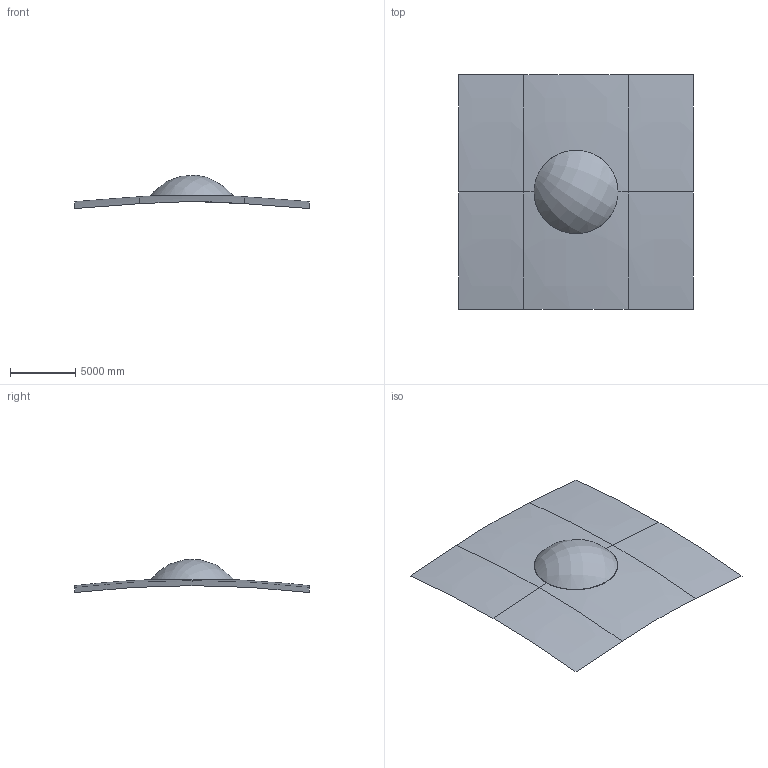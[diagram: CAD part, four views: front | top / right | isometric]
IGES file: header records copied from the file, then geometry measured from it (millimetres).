
Start section: START RECORD GO HERE.
Global section: file name: y1.igs; native system: IBM CATIA IGES - CATIA Version 5 Release 18 ; preprocessor: CATIA Version 5 Release 18 ; author: t1692hh; organization: CAG; date: 20120103.132324; units: millimetre
Bounding box: 17940.82 x 17940.82 x 2536.61 mm (x, y, z)
Surface area: 331094829.8 mm2 (no closed solid volume)
Topology: 0 solids, 0 shells, 9 faces, 54 edges, 64 vertices
Faces by surface type: bspline 8, revolution 1
